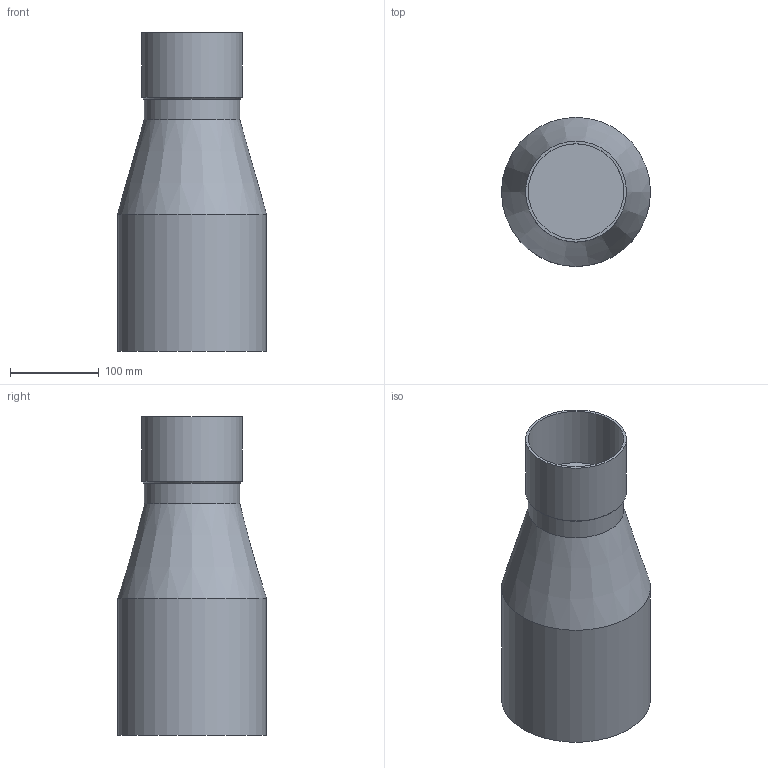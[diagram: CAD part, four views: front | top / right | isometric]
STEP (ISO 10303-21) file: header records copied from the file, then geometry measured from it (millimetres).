
FILE_DESCRIPTION( ( 'Unknown' ), '1' );
FILE_NAME( 'O:/alfredo/Alfredo2/ISOTUBI/PZAS3D/FICHATECNICA/NUMEPRESS/generico 3D/Genericos stp/F14DN108-168,3.stp', 'Unknown', ( 'Unknown' ), ( 'Unknown' ), 'PSStep 16.0.42', 'Unknown', ' ' );
FILE_SCHEMA( ( 'AUTOMOTIVE_DESIGN { 1 0 10303 214 1 1 1 1 }' ) );
Length unit declared in the file: millimetre
Products named in the file (1): 1
Bounding box: 168.3 x 168.3 x 360 mm (x, y, z)
Volume: 5399264.3 mm3; surface area: 221985 mm2
Topology: 1 solids, 1 shells, 10 faces, 17 edges, 11 vertices
Faces by surface type: cylinder 4, plane 4, cone 2
Full cylindrical faces by diameter (mm): 108 x2, 114 x1, 168.3 x1
Entity records: 290 total; most frequent: DIRECTION 40, CARTESIAN_POINT 29, AXIS2_PLACEMENT_3D 20, EDGE_LOOP 18, ORIENTED_EDGE 18, FACE_OUTER_BOUND 14, STYLED_ITEM 10, PRESENTATION_STYLE_ASSIGNMENT 10
